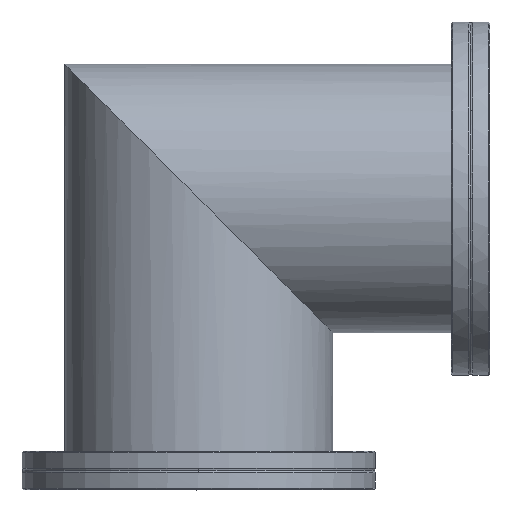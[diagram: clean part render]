
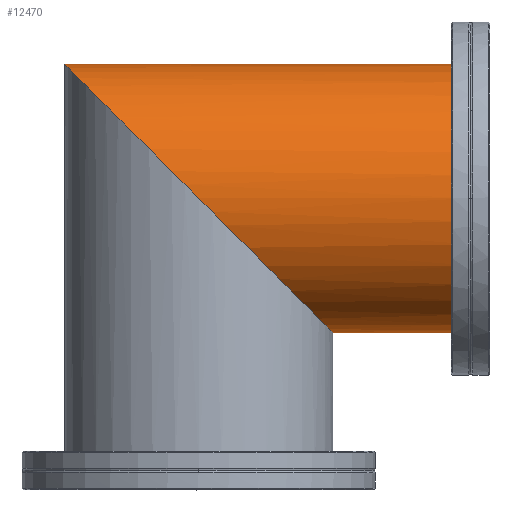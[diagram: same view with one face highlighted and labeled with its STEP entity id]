
A CAD part, top view. The second image highlights one B-rep face of the part: STEP entity #12470.
In plain terms, the highlighted cylindrical face has radius 77 mm (diameter 154 mm), a partial arc.
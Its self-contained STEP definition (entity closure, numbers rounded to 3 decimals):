
#601=CARTESIAN_POINT('',(77.,78.,0.));
#602=VERTEX_POINT('',#601);
#618=CARTESIAN_POINT('',(-77.,232.0,0.));
#619=VERTEX_POINT('',#618);
#650=CARTESIAN_POINT('',(155.0,78.,0.));
#651=VERTEX_POINT('',#650);
#652=CARTESIAN_POINT('',(77.,78.,0.));
#653=DIRECTION('',(1.0,0.0,0.0));
#654=VECTOR('',#653,78.);
#655=LINE('',#652,#654);
#656=EDGE_CURVE('',#602,#651,#655,.T.);
#660=CARTESIAN_POINT('',(155.0,232.,0.));
#661=VERTEX_POINT('',#660);
#662=CARTESIAN_POINT('',(155.0,232.,0.));
#663=DIRECTION('',(-1.0,0.0,0.0));
#664=VECTOR('',#663,232.0);
#665=LINE('',#662,#664);
#666=EDGE_CURVE('',#661,#619,#665,.T.);
#8175=CARTESIAN_POINT('',(155.0,155.,0.0));
#8176=DIRECTION('',(-1.0,0.0,0.0));
#8177=DIRECTION('',(0.0,-1.0,0.0));
#8178=AXIS2_PLACEMENT_3D('',#8175,#8176,#8177);
#8179=CIRCLE('',#8178,77.0);
#8180=EDGE_CURVE('',#651,#661,#8179,.T.);
#12444=CARTESIAN_POINT('',(0.0,155.0,0.0));
#12445=DIRECTION('',(1.0,0.,0.0));
#12446=DIRECTION('',(0.0,-1.0,0.0));
#12447=AXIS2_PLACEMENT_3D('',#12444,#12445,#12446);
#12448=CYLINDRICAL_SURFACE('',#12447,77.0);
#12449=ORIENTED_EDGE('',*,*,#656,.T.);
#12450=ORIENTED_EDGE('',*,*,#8180,.T.);
#12451=ORIENTED_EDGE('',*,*,#666,.T.);
#12452=CARTESIAN_POINT('',(0.0,155.0,77.0));
#12453=VERTEX_POINT('',#12452);
#12454=CARTESIAN_POINT('',(0.0,155.0,0.0));
#12455=DIRECTION('',(0.707,0.707,0.0));
#12456=DIRECTION('',(0.707,-0.707,0.0));
#12457=AXIS2_PLACEMENT_3D('',#12454,#12455,#12456);
#12458=ELLIPSE('',#12457,108.894,77.0);
#12459=EDGE_CURVE('',#619,#12453,#12458,.T.);
#12460=ORIENTED_EDGE('',*,*,#12459,.T.);
#12461=CARTESIAN_POINT('',(0.0,155.0,0.0));
#12462=DIRECTION('',(-0.707,-0.707,0.0));
#12463=DIRECTION('',(0.707,-0.707,0.0));
#12464=AXIS2_PLACEMENT_3D('',#12461,#12462,#12463);
#12465=ELLIPSE('',#12464,108.894,77.0);
#12466=EDGE_CURVE('',#602,#12453,#12465,.T.);
#12467=ORIENTED_EDGE('',*,*,#12466,.F.);
#12468=EDGE_LOOP('',(#12449,#12450,#12451,#12460,#12467));
#12469=FACE_OUTER_BOUND('',#12468,.T.);
#12470=ADVANCED_FACE('',(#12469),#12448,.T.);
